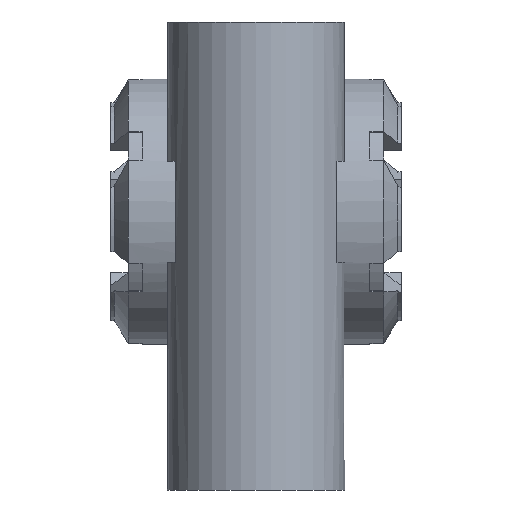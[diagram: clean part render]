
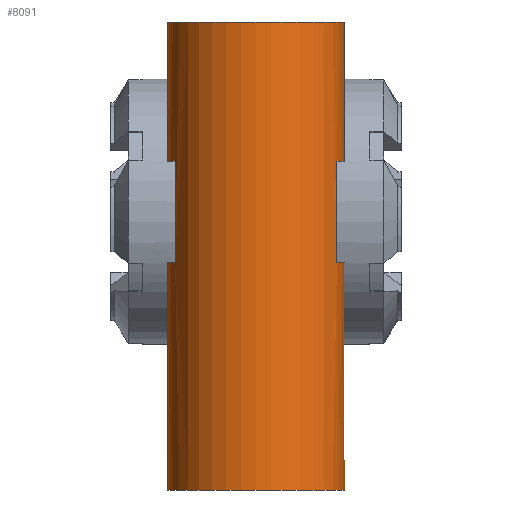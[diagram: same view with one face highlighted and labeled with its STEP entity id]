
A CAD part, front view. The second image highlights one B-rep face of the part: STEP entity #8091.
In plain terms, the highlighted cylindrical face has radius 35 mm (diameter 70 mm), a full revolution.
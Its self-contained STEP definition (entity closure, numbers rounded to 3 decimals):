
#753=CIRCLE('',#29090,35.);
#754=CIRCLE('',#29092,35.);
#755=CIRCLE('',#29093,35.);
#756=CIRCLE('',#29094,35.);
#757=CIRCLE('',#29095,35.);
#758=CIRCLE('',#29096,35.);
#3041=LINE('',#49763,#6137);
#3042=LINE('',#49768,#6138);
#3043=LINE('',#49774,#6139);
#3044=LINE('',#49778,#6140);
#3045=LINE('',#49779,#6141);
#3046=LINE('',#49792,#6142);
#6137=VECTOR('',#33973,1.);
#6138=VECTOR('',#33976,1.);
#6139=VECTOR('',#33981,1.);
#6140=VECTOR('',#33984,1.);
#6141=VECTOR('',#33985,1.);
#6142=VECTOR('',#33986,1.);
#6555=CYLINDRICAL_SURFACE('',#29097,35.);
#6744=FACE_BOUND('',#11896,.T.);
#6745=FACE_BOUND('',#11897,.T.);
#6746=FACE_BOUND('',#11898,.T.);
#6747=FACE_BOUND('',#11899,.T.);
#6748=FACE_BOUND('',#11900,.T.);
#8091=ADVANCED_FACE('',(#6744,#6745,#6746,#6747,#6748),#6555,.T.);
#11896=EDGE_LOOP('',(#19224));
#11897=EDGE_LOOP('',(#19225));
#11898=EDGE_LOOP('',(#19226,#19227,#19228,#19229));
#11899=EDGE_LOOP('',(#19230,#19231,#19232,#19233));
#11900=EDGE_LOOP('',(#19234,#19235,#19236,#19237));
#19224=ORIENTED_EDGE('',*,*,#26125,.T.);
#19225=ORIENTED_EDGE('',*,*,#26126,.T.);
#19226=ORIENTED_EDGE('',*,*,#26127,.F.);
#19227=ORIENTED_EDGE('',*,*,#26128,.T.);
#19228=ORIENTED_EDGE('',*,*,#26129,.F.);
#19229=ORIENTED_EDGE('',*,*,#26130,.T.);
#19230=ORIENTED_EDGE('',*,*,#26131,.T.);
#19231=ORIENTED_EDGE('',*,*,#26132,.F.);
#19232=ORIENTED_EDGE('',*,*,#26133,.T.);
#19233=ORIENTED_EDGE('',*,*,#26134,.F.);
#19234=ORIENTED_EDGE('',*,*,#26062,.F.);
#19235=ORIENTED_EDGE('',*,*,#26135,.F.);
#19236=ORIENTED_EDGE('',*,*,#26136,.F.);
#19237=ORIENTED_EDGE('',*,*,#26137,.F.);
#22263=VERTEX_POINT('',#46902);
#22264=VERTEX_POINT('',#46903);
#22306=VERTEX_POINT('',#49759);
#22307=VERTEX_POINT('',#49762);
#22308=VERTEX_POINT('',#49764);
#22309=VERTEX_POINT('',#49765);
#22310=VERTEX_POINT('',#49767);
#22311=VERTEX_POINT('',#49769);
#22312=VERTEX_POINT('',#49772);
#22313=VERTEX_POINT('',#49773);
#22314=VERTEX_POINT('',#49775);
#22315=VERTEX_POINT('',#49777);
#22316=VERTEX_POINT('',#49780);
#22317=VERTEX_POINT('',#49791);
#26062=EDGE_CURVE('',#22263,#22264,#28052,.T.);
#26125=EDGE_CURVE('',#22306,#22306,#753,.T.);
#26126=EDGE_CURVE('',#22307,#22307,#754,.T.);
#26127=EDGE_CURVE('',#22308,#22309,#3041,.T.);
#26128=EDGE_CURVE('',#22308,#22310,#755,.T.);
#26129=EDGE_CURVE('',#22311,#22310,#3042,.T.);
#26130=EDGE_CURVE('',#22311,#22309,#756,.T.);
#26131=EDGE_CURVE('',#22312,#22313,#757,.T.);
#26132=EDGE_CURVE('',#22314,#22313,#3043,.T.);
#26133=EDGE_CURVE('',#22314,#22315,#758,.T.);
#26134=EDGE_CURVE('',#22312,#22315,#3044,.T.);
#26135=EDGE_CURVE('',#22316,#22263,#3045,.T.);
#26136=EDGE_CURVE('',#22317,#22316,#28104,.T.);
#26137=EDGE_CURVE('',#22264,#22317,#3046,.T.);
#28052=B_SPLINE_CURVE_WITH_KNOTS('',3,(#46892,#46893,#46894,#46895,#46896,
#46897,#46898,#46899,#46900,#46901),.UNSPECIFIED.,.F.,.F.,(4,2,2,2,4),(0.,
0.25,0.5,0.75,1.),.UNSPECIFIED.);
#28104=B_SPLINE_CURVE_WITH_KNOTS('',3,(#49781,#49782,#49783,#49784,#49785,
#49786,#49787,#49788,#49789,#49790),.UNSPECIFIED.,.F.,.F.,(4,2,2,2,4),(0.,
0.25,0.5,0.75,1.),.UNSPECIFIED.);
#29090=AXIS2_PLACEMENT_3D('',#49758,#33967,#33968);
#29092=AXIS2_PLACEMENT_3D('',#49761,#33971,#33972);
#29093=AXIS2_PLACEMENT_3D('',#49766,#33974,#33975);
#29094=AXIS2_PLACEMENT_3D('',#49770,#33977,#33978);
#29095=AXIS2_PLACEMENT_3D('',#49771,#33979,#33980);
#29096=AXIS2_PLACEMENT_3D('',#49776,#33982,#33983);
#29097=AXIS2_PLACEMENT_3D('',#49793,#33987,#33988);
#33967=DIRECTION('',(0.,0.,-1.));
#33968=DIRECTION('',(-1.,0.,0.));
#33971=DIRECTION('',(0.,0.,1.));
#33972=DIRECTION('',(-1.,0.,0.));
#33973=DIRECTION('',(0.,0.,1.));
#33974=DIRECTION('',(0.,0.,-1.));
#33975=DIRECTION('',(1.,0.,0.));
#33976=DIRECTION('',(0.,0.,-1.));
#33977=DIRECTION('',(0.,0.,1.));
#33978=DIRECTION('',(0.914,-0.405,0.));
#33979=DIRECTION('',(0.,0.,-1.));
#33980=DIRECTION('',(-0.914,-0.405,0.));
#33981=DIRECTION('',(0.,0.,-1.));
#33982=DIRECTION('',(0.,0.,1.));
#33983=DIRECTION('',(-1.,0.,0.));
#33984=DIRECTION('',(0.,0.,1.));
#33985=DIRECTION('',(0.,0.,1.));
#33986=DIRECTION('',(0.,0.,-1.));
#33987=DIRECTION('',(0.,0.,1.));
#33988=DIRECTION('',(1.,0.,0.));
#46892=CARTESIAN_POINT('',(-14.177,8.5,10.259));
#46893=CARTESIAN_POINT('',(-12.571,9.212,12.48));
#46894=CARTESIAN_POINT('',(-10.475,9.988,14.282));
#46895=CARTESIAN_POINT('',(-5.623,11.135,16.796));
#46896=CARTESIAN_POINT('',(-2.832,11.498,17.495));
#46897=CARTESIAN_POINT('',(2.772,11.502,17.505));
#46898=CARTESIAN_POINT('',(5.59,11.142,16.809));
#46899=CARTESIAN_POINT('',(10.469,9.991,14.289));
#46900=CARTESIAN_POINT('',(12.57,9.212,12.481));
#46901=CARTESIAN_POINT('',(14.177,8.5,10.259));
#46902=CARTESIAN_POINT('',(-14.177,8.5,10.259));
#46903=CARTESIAN_POINT('',(14.177,8.5,10.259));
#49758=CARTESIAN_POINT('',(0.,-23.5,75.));
#49759=CARTESIAN_POINT('',(-35.,-23.5,75.));
#49761=CARTESIAN_POINT('',(0.,-23.5,-110.));
#49762=CARTESIAN_POINT('',(-35.,-23.5,-110.));
#49763=CARTESIAN_POINT('',(32.,-9.323,-20.));
#49764=CARTESIAN_POINT('',(32.,-9.323,-20.));
#49765=CARTESIAN_POINT('',(32.,-9.323,20.));
#49766=CARTESIAN_POINT('',(0.,-23.5,-20.));
#49767=CARTESIAN_POINT('',(32.,-37.677,-20.));
#49768=CARTESIAN_POINT('',(32.,-37.677,20.));
#49769=CARTESIAN_POINT('',(32.,-37.677,20.));
#49770=CARTESIAN_POINT('',(0.,-23.5,20.));
#49771=CARTESIAN_POINT('',(0.,-23.5,-20.));
#49772=CARTESIAN_POINT('',(-32.,-37.677,-20.));
#49773=CARTESIAN_POINT('',(-32.,-9.323,-20.));
#49774=CARTESIAN_POINT('',(-32.,-9.323,20.));
#49775=CARTESIAN_POINT('',(-32.,-9.323,20.));
#49776=CARTESIAN_POINT('',(0.,-23.5,20.));
#49777=CARTESIAN_POINT('',(-32.,-37.677,20.));
#49778=CARTESIAN_POINT('',(-32.,-37.677,-20.));
#49779=CARTESIAN_POINT('',(-14.177,8.5,-10.259));
#49780=CARTESIAN_POINT('',(-14.177,8.5,-10.259));
#49781=CARTESIAN_POINT('',(14.177,8.5,-10.259));
#49782=CARTESIAN_POINT('',(12.571,9.212,-12.48));
#49783=CARTESIAN_POINT('',(10.475,9.988,-14.282));
#49784=CARTESIAN_POINT('',(5.623,11.135,-16.796));
#49785=CARTESIAN_POINT('',(2.832,11.498,-17.495));
#49786=CARTESIAN_POINT('',(-2.772,11.502,-17.505));
#49787=CARTESIAN_POINT('',(-5.59,11.142,-16.809));
#49788=CARTESIAN_POINT('',(-10.469,9.991,-14.289));
#49789=CARTESIAN_POINT('',(-12.57,9.212,-12.481));
#49790=CARTESIAN_POINT('',(-14.177,8.5,-10.259));
#49791=CARTESIAN_POINT('',(14.177,8.5,-10.259));
#49792=CARTESIAN_POINT('',(14.177,8.5,10.259));
#49793=CARTESIAN_POINT('',(0.,-23.5,-119.25));
